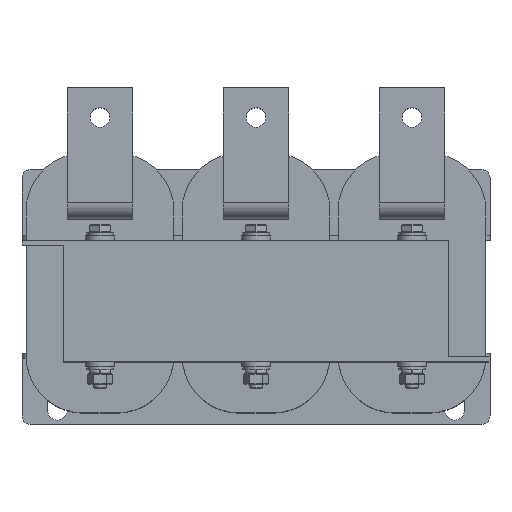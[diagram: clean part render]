
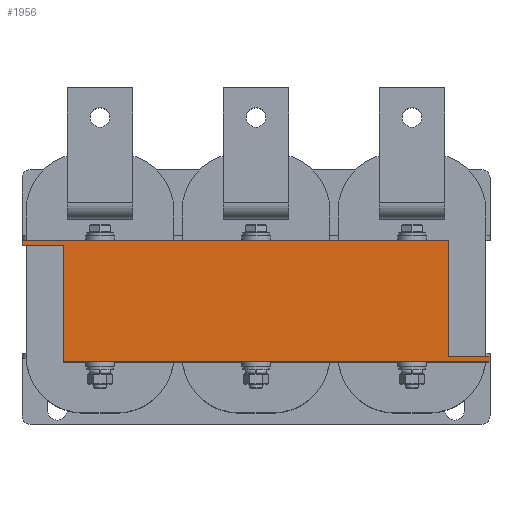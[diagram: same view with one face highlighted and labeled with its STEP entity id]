
A CAD part, top view. The second image highlights one B-rep face of the part: STEP entity #1956.
In plain terms, the highlighted planar face has unit normal (0, 0, 1).
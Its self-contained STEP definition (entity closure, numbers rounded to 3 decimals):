
#1956=ADVANCED_FACE('',(#2651),#2653,.T.);
#2651=FACE_BOUND('',#2652,.T.);
#2652=EDGE_LOOP('',(#3488,#3489,#3490,#3491,#3492,#3493,#3494,#3495));
#2653=PLANE('',#2654);
#2654=AXIS2_PLACEMENT_3D('',#2655,#2656,#2657);
#2655=CARTESIAN_POINT('',(0.,0.,48.));
#2656=DIRECTION('',(0.,0.,1.));
#2657=DIRECTION('',(-1.,0.,0.));
#3488=ORIENTED_EDGE('',*,*,#3886,.T.);
#3489=ORIENTED_EDGE('',*,*,#3905,.T.);
#3490=ORIENTED_EDGE('',*,*,#3875,.T.);
#3491=ORIENTED_EDGE('',*,*,#3906,.T.);
#3492=ORIENTED_EDGE('',*,*,#3867,.T.);
#3493=ORIENTED_EDGE('',*,*,#3907,.T.);
#3494=ORIENTED_EDGE('',*,*,#3856,.T.);
#3495=ORIENTED_EDGE('',*,*,#3904,.T.);
#3856=EDGE_CURVE('',#4260,#4258,#4261,.T.);
#3867=EDGE_CURVE('',#4282,#4280,#4283,.T.);
#3875=EDGE_CURVE('',#4298,#4296,#4299,.T.);
#3886=EDGE_CURVE('',#4320,#4318,#4321,.T.);
#3904=EDGE_CURVE('',#4258,#4320,#4343,.T.);
#3905=EDGE_CURVE('',#4318,#4298,#4344,.T.);
#3906=EDGE_CURVE('',#4296,#4282,#4345,.T.);
#3907=EDGE_CURVE('',#4280,#4260,#4346,.T.);
#4258=VERTEX_POINT('',#5102);
#4260=VERTEX_POINT('',#5106);
#4261=LINE('',#5107,#5108);
#4280=VERTEX_POINT('',#5151);
#4282=VERTEX_POINT('',#5155);
#4283=LINE('',#5156,#5157);
#4296=VERTEX_POINT('',#5185);
#4298=VERTEX_POINT('',#5189);
#4299=LINE('',#5190,#5191);
#4318=VERTEX_POINT('',#5234);
#4320=VERTEX_POINT('',#5238);
#4321=LINE('',#5239,#5240);
#4343=LINE('',#5299,#5300);
#4344=LINE('',#5302,#5303);
#4345=LINE('',#5305,#5306);
#4346=LINE('',#5308,#5309);
#5102=CARTESIAN_POINT('',(-142.5,37.,48.));
#5106=CARTESIAN_POINT('',(117.5,37.,48.));
#5107=CARTESIAN_POINT('',(117.5,37.,48.));
#5108=VECTOR('',#5109,1.);
#5109=DIRECTION('',(-1.,0.,0.));
#5151=CARTESIAN_POINT('',(117.5,-34.,48.));
#5155=CARTESIAN_POINT('',(142.5,-34.,48.));
#5156=CARTESIAN_POINT('',(142.5,-34.,48.));
#5157=VECTOR('',#5158,1.);
#5158=DIRECTION('',(-1.,0.,0.));
#5185=CARTESIAN_POINT('',(142.5,-37.,48.));
#5189=CARTESIAN_POINT('',(-117.5,-37.,48.));
#5190=CARTESIAN_POINT('',(-117.5,-37.,48.));
#5191=VECTOR('',#5192,1.);
#5192=DIRECTION('',(1.,0.,0.));
#5234=CARTESIAN_POINT('',(-117.5,34.,48.));
#5238=CARTESIAN_POINT('',(-142.5,34.,48.));
#5239=CARTESIAN_POINT('',(-142.5,34.,48.));
#5240=VECTOR('',#5241,1.);
#5241=DIRECTION('',(1.,0.,0.));
#5299=CARTESIAN_POINT('',(-142.5,37.,48.));
#5300=VECTOR('',#5301,1.);
#5301=DIRECTION('',(0.,-1.,0.));
#5302=CARTESIAN_POINT('',(-117.5,34.,48.));
#5303=VECTOR('',#5304,1.);
#5304=DIRECTION('',(0.,-1.,0.));
#5305=CARTESIAN_POINT('',(142.5,-37.,48.));
#5306=VECTOR('',#5307,1.);
#5307=DIRECTION('',(0.,1.,0.));
#5308=CARTESIAN_POINT('',(117.5,-34.,48.));
#5309=VECTOR('',#5310,1.);
#5310=DIRECTION('',(0.,1.,0.));
